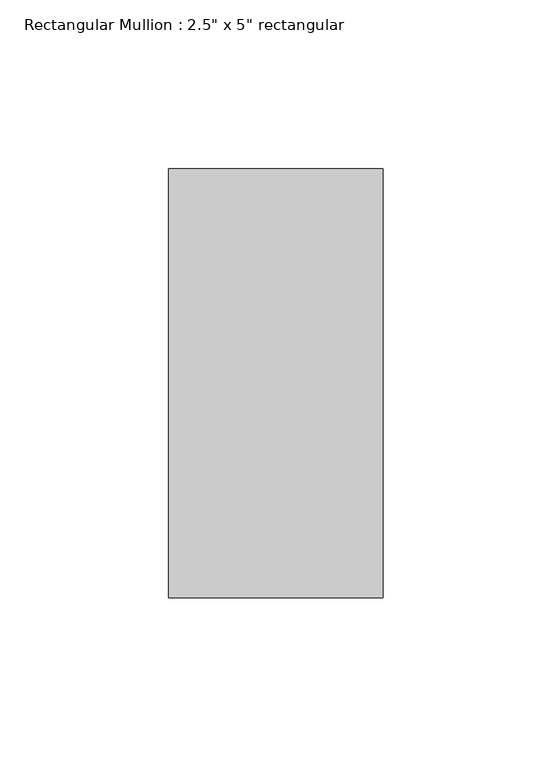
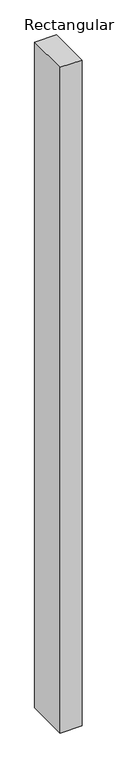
"""IFC4 building model written with IfcOpenShell, lengths in millimetres: member geometry."""

from ifc_helpers import new_model, si_unit, frame, origin, place, context, project, spatial, polyline, outline, extrude, source, transform, mapped, element, save


def member_2dee25fe(model_context):
    return source(origin(), model_context, "Body", "SweptSolid", [
        extrude(outline(polyline([(31.75, 63.5), (31.75, -63.5), (-31.75, -63.5), (-31.75, 63.5), (31.75, 63.5)])), frame((0.0, 0.0, -2029.9732935), z_axis=(0.0, 0.0, 1.0), x_axis=(1.0, 0.0, 0.0)), (0.0, 0.0, 1.0), 2029.9732935),
    ])


if __name__ == "__main__":
    model = new_model("IFC4")
    model_context = context("Model", 3, world=origin())
    ifc_project = project(units=[si_unit("LENGTHUNIT", "METRE", prefix="MILLI")], contexts=[model_context])
    site = spatial("IfcSite", under=ifc_project)
    building = spatial("IfcBuilding", under=site)
    placement = place(None, origin())
    member_shape = member_2dee25fe(model_context)
    element("IfcMember", 1, ObjectType="Rectangular Mullion : 2.5\" x 5\" rectangular", at=placement, inside=building, context=model_context, shape_type="MappedRepresentation", body=[
        mapped(member_shape, transform((0.0, 0.0, 0.0), x_axis=(1.0, 0.0, 0.0), y_axis=(0.0, 1.0, 0.0), z_axis=(0.0, 0.0, 1.0))),
    ])
    save(model, "model.ifc")
